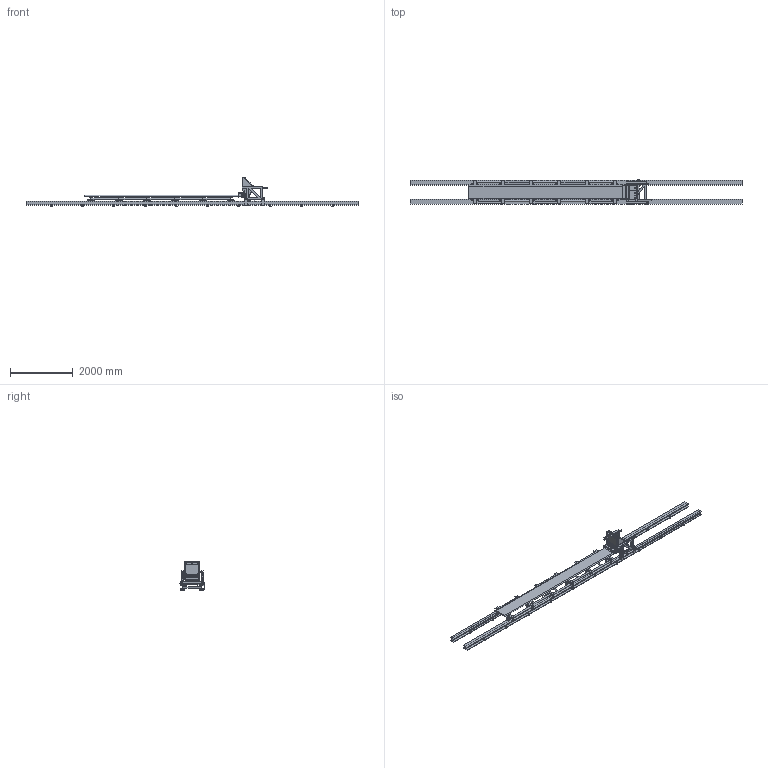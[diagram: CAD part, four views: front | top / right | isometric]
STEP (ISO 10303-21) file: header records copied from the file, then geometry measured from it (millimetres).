
FILE_DESCRIPTION(/* description */ (''),/* implementation_level */ '2;1');
FILE_NAME(/* name */ '1102_aaaas_CRT.stp',/* time_stamp */ '2011-03-02T15:49:25+01:00',/* author */ (''),/* organization */ (''),/* preprocessor_version */ 'ST-DEVELOPER v11',/* originating_system */ 'SIEMENS PLM Software NX 7.5',/* authorisation */ '');
FILE_SCHEMA (('CONFIG_CONTROL_DESIGN'));
Products named in the file (1): bmas55EAc5io
Bounding box: 10617.2 x 808 x 914.85 mm (x, y, z)
Volume: 283400363 mm3; surface area: 36450584.3 mm2
Topology: 247 solids, 247 shells, 4513 faces, 10586 edges, 7000 vertices
Faces by surface type: plane 2742, cylinder 1547, cone 116, torus 96, sphere 6, bspline 6
Full cylindrical faces by diameter (mm): 3 x12, 4 x10, 5 x18, 5.5 x10, 6 x4, 6.5 x4, 8.5 x10, 9 x8, 16 x86, 18 x1, 20 x23, 20.5 x6, 22 x15, 22.5 x6, 24 x8, 25 x15, 26 x144, 27 x3, 30 x44, 32 x8, 35 x6, 36 x3, 44.45 x24, 50 x21, 50.8 x24, 60 x43
Entity records: 125713 total; most frequent: CARTESIAN_POINT 22449, DIRECTION 22029, ORIENTED_EDGE 19462, EDGE_CURVE 9731, AXIS2_PLACEMENT_3D 7872, VERTEX_POINT 6828, LINE 6285, VECTOR 6285
